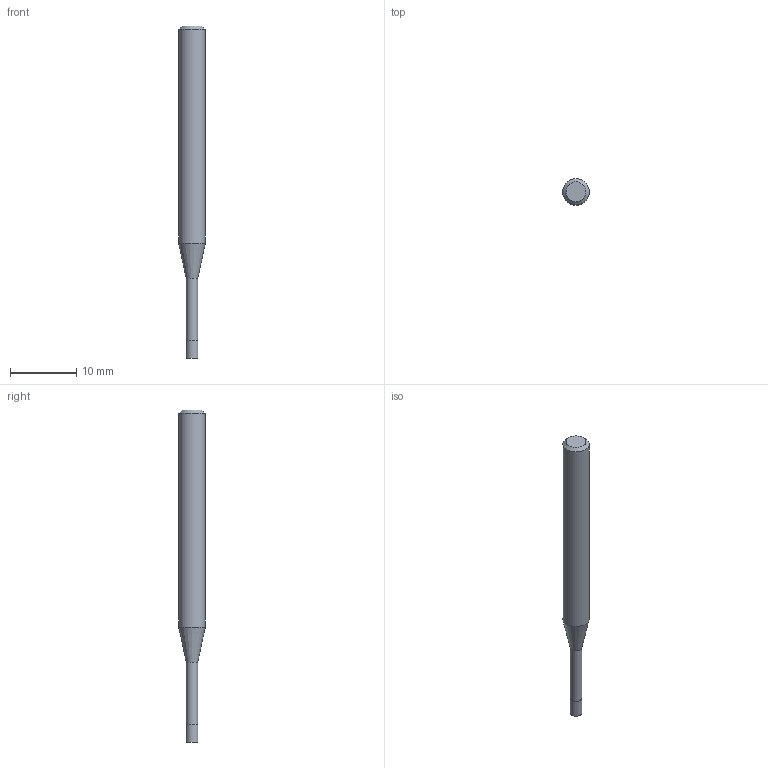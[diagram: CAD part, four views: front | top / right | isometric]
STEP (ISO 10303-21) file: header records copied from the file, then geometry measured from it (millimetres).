
FILE_DESCRIPTION((''),'2;1');
FILE_NAME('C:\Users\nsx150\AppData\Local\Temp\Mastercam 2021\17T8Q8S9EB\TEMP.step','2021-04-21T16:15:22',(''),(''),'STEP Write','Mastercam 2021 ... CNC Software, Inc.','');
FILE_SCHEMA(('AUTOMOTIVE_DESIGN'));
Length unit declared in the file: millimetre
Products named in the file (1): None
Bounding box: 4 x 4 x 50 mm (x, y, z)
Volume: 474.4 mm3; surface area: 541.9 mm2
Topology: 2 solids, 2 shells, 9 faces, 12 edges, 7 vertices
Faces by surface type: plane 4, cylinder 3, cone 2
Full cylindrical faces by diameter (mm): 1.74 x1, 1.8 x1, 4 x1
Entity records: 211 total; most frequent: DIRECTION 36, CARTESIAN_POINT 25, AXIS2_PLACEMENT_3D 18, ORIENTED_EDGE 14, EDGE_LOOP 14, STYLED_ITEM 12, ADVANCED_FACE 9, FACE_BOUND 8
